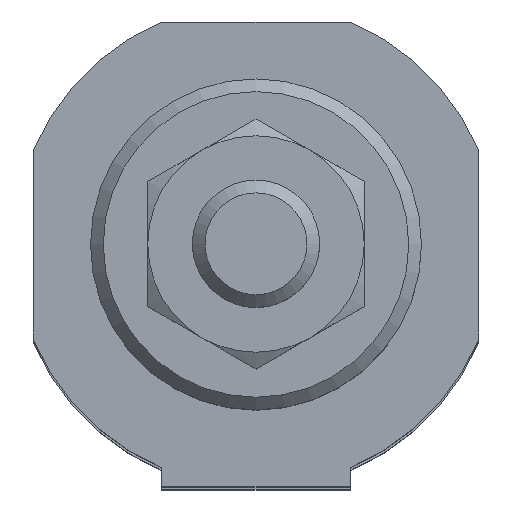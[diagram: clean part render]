
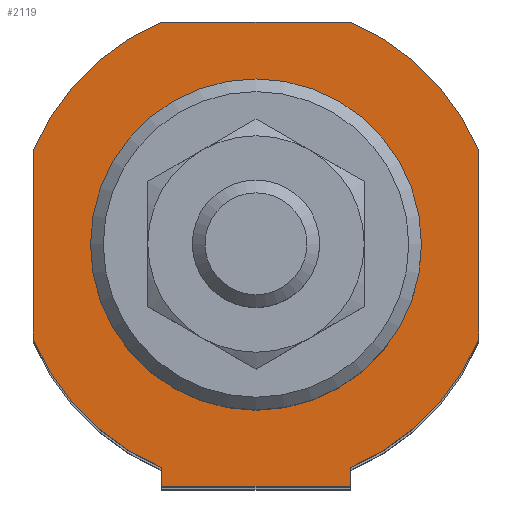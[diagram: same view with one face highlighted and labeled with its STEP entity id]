
A CAD part, top view. The second image highlights one B-rep face of the part: STEP entity #2119.
In plain terms, the highlighted planar face has unit normal (0, 0, 1).
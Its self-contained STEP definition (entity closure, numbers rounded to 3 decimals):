
#1123=CARTESIAN_POINT('',(7.399,-19.0,173.));
#1124=VERTEX_POINT('',#1123);
#1125=CARTESIAN_POINT('',(-7.399,-19.0,173.));
#1126=VERTEX_POINT('',#1125);
#1127=CARTESIAN_POINT('',(7.399,-19.0,173.));
#1128=DIRECTION('',(-1.0,0.0,0.0));
#1129=VECTOR('',#1128,14.799);
#1130=LINE('',#1127,#1129);
#1131=EDGE_CURVE('',#1124,#1126,#1130,.T.);
#1545=CARTESIAN_POINT('',(-7.399,-17.5,173.));
#1546=VERTEX_POINT('',#1545);
#1560=CARTESIAN_POINT('',(-7.399,-17.5,173.));
#1561=DIRECTION('',(0.0,-1.0,0.0));
#1562=VECTOR('',#1561,1.5);
#1563=LINE('',#1560,#1562);
#1564=EDGE_CURVE('',#1546,#1126,#1563,.T.);
#1576=CARTESIAN_POINT('',(7.399,-17.5,173.));
#1577=VERTEX_POINT('',#1576);
#1584=CARTESIAN_POINT('',(7.399,-17.5,173.));
#1585=DIRECTION('',(0.0,-1.0,0.0));
#1586=VECTOR('',#1585,1.5);
#1587=LINE('',#1584,#1586);
#1588=EDGE_CURVE('',#1577,#1124,#1587,.T.);
#1801=CARTESIAN_POINT('',(13.0,0.,173.));
#1802=VERTEX_POINT('',#1801);
#1803=CARTESIAN_POINT('',(0.,0.,173.));
#1804=DIRECTION('',(0.0,0.0,-1.0));
#1805=DIRECTION('',(-1.0,0.0,0.0));
#1806=AXIS2_PLACEMENT_3D('',#1803,#1804,#1805);
#1807=CIRCLE('',#1806,13.0);
#1808=EDGE_CURVE('',#1802,#1802,#1807,.T.);
#2013=CARTESIAN_POINT('',(-17.5,-7.399,173.));
#2014=VERTEX_POINT('',#2013);
#2015=CARTESIAN_POINT('',(-17.5,7.399,173.));
#2016=VERTEX_POINT('',#2015);
#2017=CARTESIAN_POINT('',(-17.5,-7.399,173.));
#2018=DIRECTION('',(0.0,1.0,0.0));
#2019=VECTOR('',#2018,14.799);
#2020=LINE('',#2017,#2019);
#2021=EDGE_CURVE('',#2014,#2016,#2020,.T.);
#2045=CARTESIAN_POINT('',(-7.399,17.5,173.));
#2046=VERTEX_POINT('',#2045);
#2047=CARTESIAN_POINT('',(0.0,0.0,173.0));
#2048=DIRECTION('',(0.0,0.0,-1.0));
#2049=DIRECTION('',(-0.389,0.921,0.0));
#2050=AXIS2_PLACEMENT_3D('',#2047,#2048,#2049);
#2051=CIRCLE('',#2050,19.0);
#2052=EDGE_CURVE('',#2016,#2046,#2051,.T.);
#2065=CARTESIAN_POINT('',(-11.374,11.374,173.));
#2066=DIRECTION('',(0.0,0.0,1.0));
#2067=DIRECTION('',(1.0,0.0,0.0));
#2068=AXIS2_PLACEMENT_3D('',#2065,#2066,#2067);
#2069=PLANE('',#2068);
#2070=CARTESIAN_POINT('',(7.399,17.5,173.));
#2071=VERTEX_POINT('',#2070);
#2072=CARTESIAN_POINT('',(-7.399,17.5,173.));
#2073=DIRECTION('',(1.0,0.0,0.0));
#2074=VECTOR('',#2073,14.799);
#2075=LINE('',#2072,#2074);
#2076=EDGE_CURVE('',#2046,#2071,#2075,.T.);
#2077=ORIENTED_EDGE('',*,*,#2076,.F.);
#2078=ORIENTED_EDGE('',*,*,#2052,.F.);
#2079=ORIENTED_EDGE('',*,*,#2021,.F.);
#2080=CARTESIAN_POINT('',(0.0,0.0,173.0));
#2081=DIRECTION('',(0.0,0.0,-1.0));
#2082=DIRECTION('',(-0.921,-0.389,0.0));
#2083=AXIS2_PLACEMENT_3D('',#2080,#2081,#2082);
#2084=CIRCLE('',#2083,19.0);
#2085=EDGE_CURVE('',#1546,#2014,#2084,.T.);
#2086=ORIENTED_EDGE('',*,*,#2085,.F.);
#2087=ORIENTED_EDGE('',*,*,#1564,.T.);
#2088=ORIENTED_EDGE('',*,*,#1131,.F.);
#2089=ORIENTED_EDGE('',*,*,#1588,.F.);
#2090=CARTESIAN_POINT('',(17.5,-7.399,173.));
#2091=VERTEX_POINT('',#2090);
#2092=CARTESIAN_POINT('',(0.0,0.0,173.0));
#2093=DIRECTION('',(0.0,0.0,-1.0));
#2094=DIRECTION('',(0.389,-0.921,0.0));
#2095=AXIS2_PLACEMENT_3D('',#2092,#2093,#2094);
#2096=CIRCLE('',#2095,19.0);
#2097=EDGE_CURVE('',#2091,#1577,#2096,.T.);
#2098=ORIENTED_EDGE('',*,*,#2097,.F.);
#2099=CARTESIAN_POINT('',(17.5,7.399,173.));
#2100=VERTEX_POINT('',#2099);
#2101=CARTESIAN_POINT('',(17.5,7.399,173.));
#2102=DIRECTION('',(0.0,-1.0,0.0));
#2103=VECTOR('',#2102,14.799);
#2104=LINE('',#2101,#2103);
#2105=EDGE_CURVE('',#2100,#2091,#2104,.T.);
#2106=ORIENTED_EDGE('',*,*,#2105,.F.);
#2107=CARTESIAN_POINT('',(0.0,0.0,173.0));
#2108=DIRECTION('',(0.0,0.0,-1.0));
#2109=DIRECTION('',(0.921,0.389,0.0));
#2110=AXIS2_PLACEMENT_3D('',#2107,#2108,#2109);
#2111=CIRCLE('',#2110,19.0);
#2112=EDGE_CURVE('',#2071,#2100,#2111,.T.);
#2113=ORIENTED_EDGE('',*,*,#2112,.F.);
#2114=EDGE_LOOP('',(#2077,#2078,#2079,#2086,#2087,#2088,#2089,#2098,#2106,#2113));
#2115=FACE_OUTER_BOUND('',#2114,.T.);
#2116=ORIENTED_EDGE('',*,*,#1808,.T.);
#2117=EDGE_LOOP('',(#2116));
#2118=FACE_BOUND('',#2117,.T.);
#2119=ADVANCED_FACE('',(#2115,#2118),#2069,.T.);
